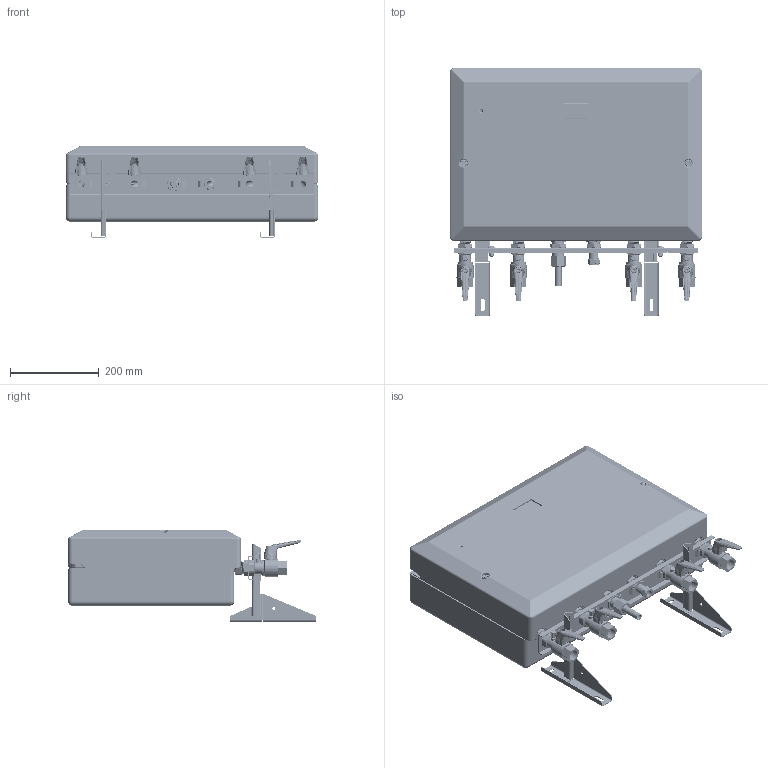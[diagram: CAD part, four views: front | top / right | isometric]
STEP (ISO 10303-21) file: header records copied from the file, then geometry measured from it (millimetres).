
FILE_DESCRIPTION(/* description */ (''),/* implementation_level */ '2;1');
FILE_NAME(/* name */ 'C:\Vault\Designs\HIUs\HSF\Eco Advance TIL Unit\DIGI Unit Complete.stp',/* time_stamp */ '2017-12-08T12:05:19+00:00',/* author */ ('jason.lawrence'),/* organization */ (''),/* preprocessor_version */ 'ST-DEVELOPER v16.1',/* originating_system */ 'Autodesk Inventor 2016',/* authorisation */ '');
FILE_SCHEMA (('CONFIG_CONTROL_DESIGN'));
Products named in the file (106): 59182; 59181; 51529; 50292; 59180; 59197; 59123; 59125; 59147; 59123_1; 59199; 59113; 59191; 59192; 59187; 59193; 59195; 59194; 59138_MOLEX 4-PINS; 59134; 59127; 51729_MET DRAAD; 51527; Buis Prim Retour Spruitstuk; 46988; 47712; Buis Retour; 59118; 47713; 91101; 91102; 47714; 59132; 40078_gemonteerd; Buis CV Retour Broen Var B; 59114; 59116; 59146; 59116_1; 59133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
Assembly tree (171 placements, depth 6):
  EcoAdvance1
    51773
      59180
        59182
        59181
        51529  x2
        50292  x2
      59197
      59113
        59123_1
          59123
          59125  x2
          59147
        59199
      51770_ASSEMBLY
        51771
          59187
            59191
            59192
          59193  x4
          59195
          59194
          59130
        59127
          59138_MOLEX 4-PINS
          59134
        51729_MET DRAAD
      51527  x2
      59132
        59118
          Buis Prim Retour Spruitstuk
          46988  x3
          47712
          Buis Retour
        47713
        91101
        91102
        47714
      40078_gemonteerd  x15
      59198  x2
      59114
        Buis CV Retour Broen Var B
        46988  x2
      59133
        59116_1
          59116
          46988  x2
          59146
        59199
      51541_51541 met vlakke afdichting G3-4
        51541
        51567  x2
        51569  x2
        pulsleiding ingekort
      59119
        Buis CV Retour Broen
        46988  x2
      59122_1
        59122
        59125  x2
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Bounding box: 570 x 559.4 x 206.24 mm (x, y, z)
Volume: 21074702.8 mm3; surface area: 2817881.7 mm2
Topology: 194 solids, 1241 shells, 16832 faces, 47919 edges, 32304 vertices
Faces by surface type: plane 7805, cylinder 4924, bspline 1599, torus 1308, cone 866, sphere 330
Full cylindrical faces by diameter (mm): 0.5 x1, 0.95 x2, 1 x1, 1.2 x2, 1.4 x2, 1.8 x8, 2 x2, 2.2 x4, 2.5 x4, 2.8 x1, 3 x14, 3.1 x1, 3.2 x1, 3.3 x2, 3.5 x6, 3.9 x2, 4 x4, 4.1 x1, 4.25 x2, 4.4 x8, 4.5 x2, 4.7 x3, 5 x15, 5.5 x2, 5.6 x1, 6 x13, 6.2 x2, 6.4 x2, 6.5 x2, 6.7 x2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
Entity records: 534478 total; most frequent: CARTESIAN_POINT 198647, DIRECTION 67403, ORIENTED_EDGE 61216, EDGE_CURVE 36481, VERTEX_POINT 25457, AXIS2_PLACEMENT_3D 22652, LINE 22099, VECTOR 22099
